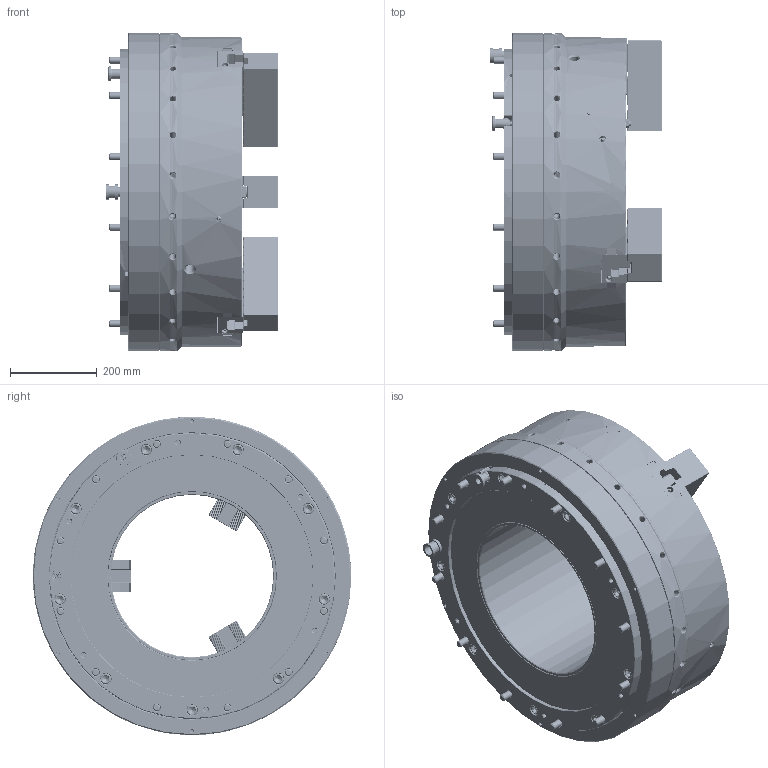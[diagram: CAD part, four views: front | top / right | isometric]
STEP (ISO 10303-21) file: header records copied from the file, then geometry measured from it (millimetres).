
FILE_DESCRIPTION (( 'STEP AP214' ), '1' );
FILE_NAME ('UPR710A375_HOL.STEP', '2025-10-15T04:38:48', ( '' ), ( '' ), 'SwSTEP 2.0', 'SolidWorks 2022', '' );
FILE_SCHEMA (( 'AUTOMOTIVE_DESIGN' ));
Length unit declared in the file: millimetre
Products named in the file (5): 61P858712; 0030124060; 61P446153; UPR710A375__X2_672c4f53_X0_; UPR710A375_HOL
Assembly tree (16 placements, depth 2):
  UPR710A375_HOL
    61P858712  x3
    61P446153  x6
    0030124060  x6
    UPR710A375__X2_672c4f53_X0_
Bounding box: 396.62 x 735 x 735 mm (x, y, z)
Volume: 84426995.6 mm3; surface area: 3605269.9 mm2
Topology: 17 solids, 24 shells, 10166 faces, 28182 edges, 18428 vertices
Faces by surface type: plane 5491, cylinder 2535, bspline 1179, cone 961
Entity records: 312451 total; most frequent: CARTESIAN_POINT 109458, ORIENTED_EDGE 43812, DIRECTION 32959, EDGE_CURVE 21906, VERTEX_POINT 14367, VECTOR 14317, LINE 14317, AXIS2_PLACEMENT_3D 9321
